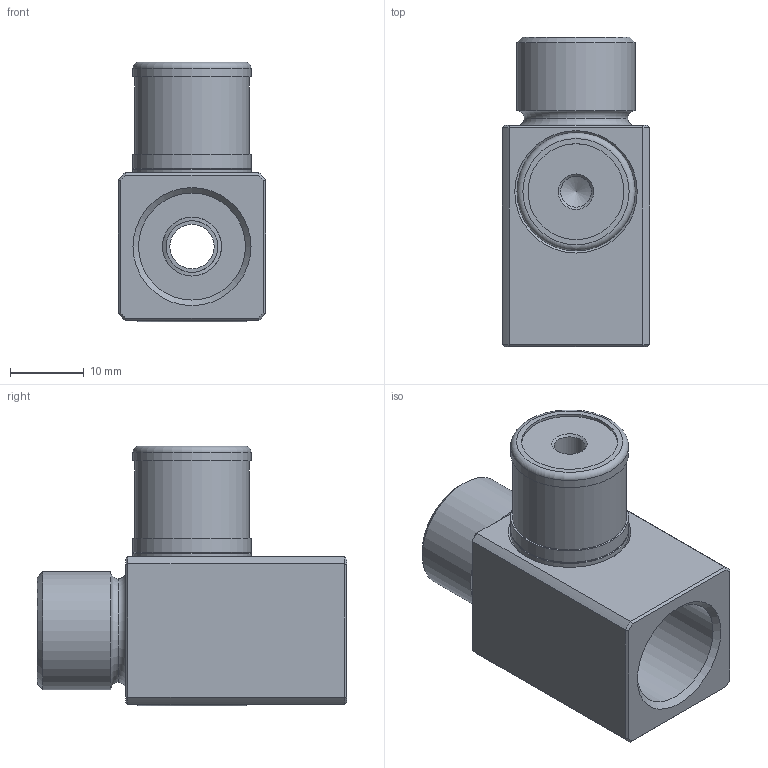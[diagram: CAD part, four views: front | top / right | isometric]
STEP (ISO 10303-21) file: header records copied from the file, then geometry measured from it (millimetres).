
FILE_DESCRIPTION(('STEP AP242'),'1');
FILE_NAME('A.6006 + MA.7016 Feststellpatrone mit Zylinderaufnahme.stp','2026-07-01T13:22:05',(' '),(' '),'Spatial InterOp 3D',' ',' ');
FILE_SCHEMA(('AP242_MANAGED_MODEL_BASED_3D_ENGINEERING_MIM_LF {1 0 10303 442 1 1 4}'));
Length unit declared in the file: millimetre
Products named in the file (3): A.6006 + MA.7016 Feststellpatrone mit Zylinderaufnahme; MA.7016; A.6006 Feststellpatrone
Assembly tree (2 placements, depth 2):
  A.6006 + MA.7016 Feststellpatrone mit Zylinderaufnahme
    MA.7016
    A.6006 Feststellpatrone
Bounding box: 20 x 42 x 35.2 mm (x, y, z)
Volume: 13747.7 mm3; surface area: 7536.3 mm2
Topology: 2 solids, 2 shells, 63 faces, 132 edges, 79 vertices
Faces by surface type: plane 23, cylinder 19, cone 17, torus 4
Full cylindrical faces by diameter (mm): 4.2 x2, 6 x1, 7 x2, 8 x2, 13 x1, 14.5 x1, 15.5 x1, 16 x5
Entity records: 2461 total; most frequent: CARTESIAN_POINT 539, DIRECTION 260, ORIENTED_EDGE 192, AXIS2_PLACEMENT_3D 118, EDGE_LOOP 106, EDGE_CURVE 96, FACE_OUTER_BOUND 82, VERTEX_POINT 73
